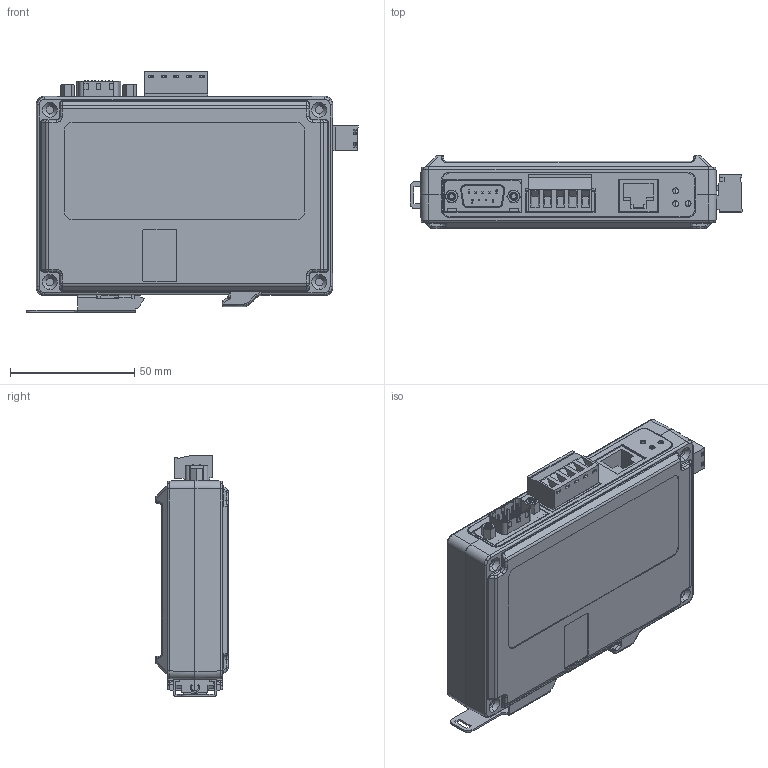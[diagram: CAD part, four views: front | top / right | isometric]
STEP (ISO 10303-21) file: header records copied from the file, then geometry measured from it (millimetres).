
FILE_DESCRIPTION (( 'STEP AP214' ), '1' );
FILE_NAME ('VESR901.STEP', '2018-08-20T21:05:37', ( '' ), ( '' ), 'SwSTEP 2.0', 'SolidWorks 2016', '' );
FILE_SCHEMA (( 'AUTOMOTIVE_DESIGN' ));
Length unit declared in the file: inch
Products named in the file (19): 7445 2 POS Terminal Header; DB Conn Screw Lock Female; 2081 DB9 Male RT; 250-10535-00 C Side; 250-10535-00 B Top; 250-10535-00 A; 7595 PCB; 7969 Assembly; 7341 Spring; 7340 DIN-Rail Clip; 7969 L_7479 L; 7969 R_7479 R; VESR901; 5484 Green-Green LED Stack; 3210 RJ45; 5643 LED; 7466 5 POS Plug; 7465 5 POS Header; 7444 2 POS Terminal Plug
Assembly tree (19 placements, depth 3):
  VESR901
    7969 Assembly
      7969 R_7479 R
      7969 L_7479 L
      7340 DIN-Rail Clip
      7341 Spring
    7595 PCB
    250-10535-00 A
    250-10535-00 B Top
    250-10535-00 C Side
    2081 DB9 Male RT
    DB Conn Screw Lock Female  x2
    7445 2 POS Terminal Header
    7444 2 POS Terminal Plug
    7465 5 POS Header
    7466 5 POS Plug
    5643 LED
    3210 RJ45
    5484 Green-Green LED Stack
Bounding box: 133.43 x 29.31 x 96.63 mm (x, y, z)
Volume: 88222.6 mm3; surface area: 99814 mm2
Topology: 19 solids, 19 shells, 2776 faces, 6924 edges, 4296 vertices
Faces by surface type: plane 1696, cylinder 584, cone 206, bspline 201, torus 54, sphere 35
Entity records: 108417 total; most frequent: CARTESIAN_POINT 33904, ORIENTED_EDGE 13208, DIRECTION 12185, EDGE_CURVE 6604, VECTOR 4837, LINE 4837, VERTEX_POINT 4140, AXIS2_PLACEMENT_3D 3674
